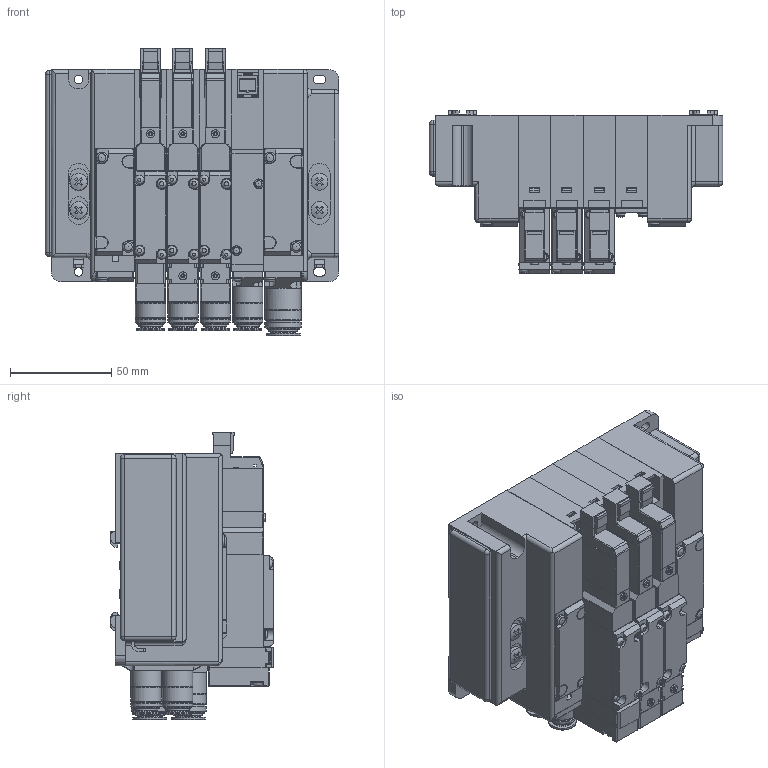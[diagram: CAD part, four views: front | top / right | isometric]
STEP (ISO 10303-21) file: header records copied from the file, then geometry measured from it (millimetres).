
FILE_DESCRIPTION( (''), '2;1');
FILE_NAME ('CVICAD02.4348.F15M4XNJ-JR-DN_21259.stp','2021-07-12T19:11:42',(''),(''),'spGate 12.6.6','','');
FILE_SCHEMA (('AUTOMOTIVE_DESIGN'));
Length unit declared in the file: millimetre
Bounding box: 145 x 80.2 x 142.1 mm (x, y, z)
Volume: 806318 mm3; surface area: 213359.6 mm2
Topology: 37 solids, 46 shells, 3338 faces, 8995 edges, 5967 vertices
Faces by surface type: plane 2320, cylinder 804, bspline 178, sphere 36
Full cylindrical faces by diameter (mm): 2.1 x6, 2.8 x14, 3 x2, 3.2 x2, 3.3 x3, 3.4 x3, 3.9 x10, 4 x5, 4.2 x2, 4.5 x26, 4.7 x6, 4.8 x2, 5.2 x6, 5.6 x6, 6.1 x8, 6.2 x8, 7 x2, 8.1 x10, 8.2 x2, 8.3 x4, 9.5 x2, 9.6 x6, 9.8 x8, 10.1 x2, 11.4 x8, 12 x2, 13.6 x8, 13.8 x8, 14.2 x2, 15 x16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
Entity records: 179441 total; most frequent: CARTESIAN_POINT 23994, ORIENTED_EDGE 17914, DIRECTION 16908, COLOUR_RGB 12332, PRESENTATION_STYLE_ASSIGNMENT 12332, STYLED_ITEM 12332, EDGE_CURVE 8957, DRAUGHTING_PRE_DEFINED_CURVE_FONT 8957
